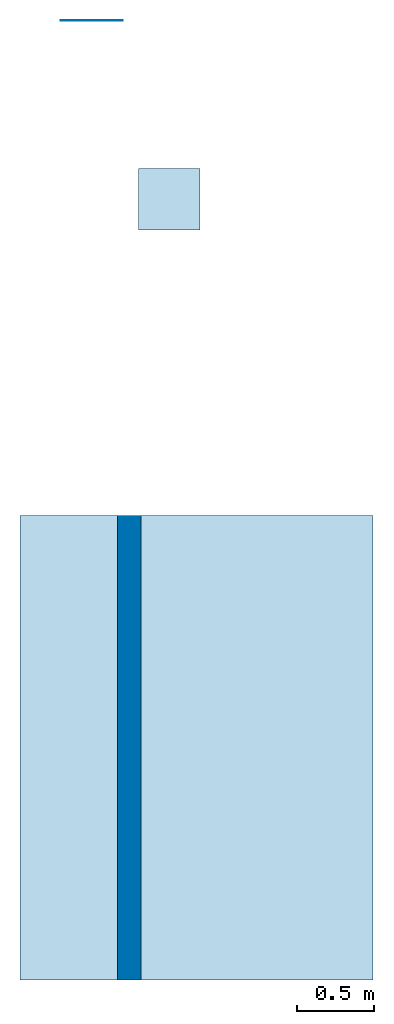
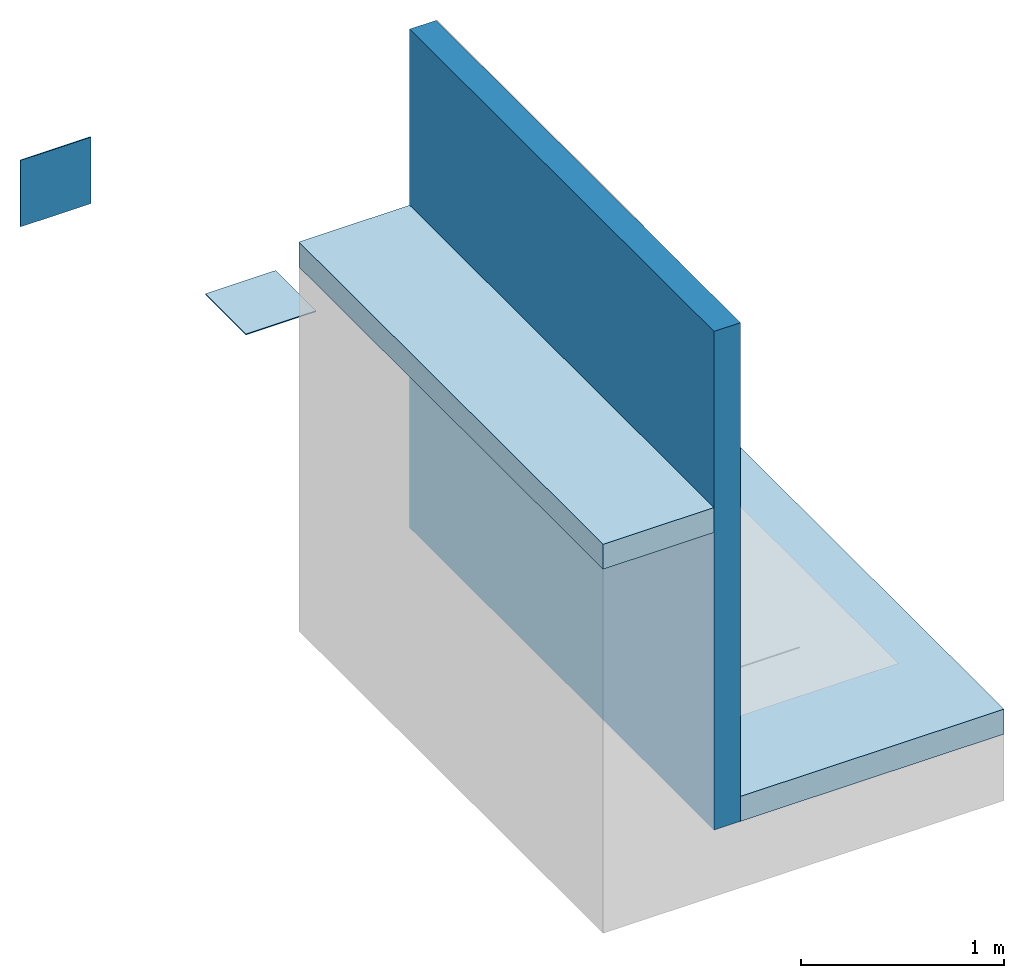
# One storey, part 1 of 2: 3 slabs, 2 walls.
"""IFC2X3 building model written with IfcOpenShell, lengths in metres."""

from ifc_helpers import new_model, entity, si_unit, converted_unit, derived_unit, direction, frame, frame_2d, origin, origin_2d_with_axis, place, context, subcontext, project, spatial, rectangle, extrude, material, layer, layer_set, layer_usage, type_object, element, save


model = new_model("IFC2X3")

# Units and contexts
model_context = context("Model", 3, precision=1e-05, world=origin(), true_north=direction((6.123031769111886e-17, 1.0)))
body_context = subcontext(model_context, "Body", "Model", "MODEL_VIEW")
ifc_project = project(units=[si_unit("LENGTHUNIT", "METRE"), si_unit("AREAUNIT", "SQUARE_METRE"), si_unit("VOLUMEUNIT", "CUBIC_METRE"), converted_unit("PLANEANGLEUNIT", "DEGREE", entity("IfcRatioMeasure", 0.017453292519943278), si_unit("PLANEANGLEUNIT", "RADIAN"), dimensions=[0, 0, 0, 0, 0, 0, 0]), si_unit("MASSUNIT", "GRAM", prefix="KILO"), derived_unit("MASSDENSITYUNIT", [(si_unit("MASSUNIT", "GRAM", prefix="KILO"), 1), (si_unit("LENGTHUNIT", "METRE"), -3)]), derived_unit("IONCONCENTRATIONUNIT", [(si_unit("MASSUNIT", "GRAM", prefix="KILO"), 1), (si_unit("LENGTHUNIT", "METRE"), -3)]), derived_unit("MOMENTOFINERTIAUNIT", [(si_unit("LENGTHUNIT", "METRE"), 4)]), si_unit("TIMEUNIT", "SECOND"), si_unit("FREQUENCYUNIT", "HERTZ"), si_unit("THERMODYNAMICTEMPERATUREUNIT", "DEGREE_CELSIUS"), derived_unit("THERMALTRANSMITTANCEUNIT", [(si_unit("MASSUNIT", "GRAM", prefix="KILO"), 1), (si_unit("THERMODYNAMICTEMPERATUREUNIT", "KELVIN"), -1), (si_unit("TIMEUNIT", "SECOND"), -3)]), derived_unit("THERMALCONDUCTANCEUNIT", [(si_unit("MASSUNIT", "GRAM", prefix="KILO"), 1), (si_unit("THERMODYNAMICTEMPERATUREUNIT", "KELVIN"), -1), (si_unit("TIMEUNIT", "SECOND"), -3), (si_unit("LENGTHUNIT", "METRE"), 1)]), derived_unit("VOLUMETRICFLOWRATEUNIT", [(si_unit("LENGTHUNIT", "METRE"), 3), (si_unit("TIMEUNIT", "SECOND"), -1)]), derived_unit("MASSFLOWRATEUNIT", [(si_unit("MASSUNIT", "GRAM", prefix="KILO"), 1), (si_unit("TIMEUNIT", "SECOND"), -1)]), derived_unit("ROTATIONALFREQUENCYUNIT", [(si_unit("TIMEUNIT", "SECOND"), -1)]), si_unit("ELECTRICCURRENTUNIT", "AMPERE"), si_unit("ELECTRICVOLTAGEUNIT", "VOLT"), si_unit("POWERUNIT", "WATT"), si_unit("FORCEUNIT", "NEWTON", prefix="KILO"), si_unit("ILLUMINANCEUNIT", "LUX"), si_unit("LUMINOUSFLUXUNIT", "LUMEN"), si_unit("LUMINOUSINTENSITYUNIT", "CANDELA"), derived_unit("USERDEFINED", [(si_unit("MASSUNIT", "GRAM", prefix="KILO"), -1), (si_unit("LENGTHUNIT", "METRE"), -2), (si_unit("TIMEUNIT", "SECOND"), 3), (si_unit("LUMINOUSFLUXUNIT", "LUMEN"), 1)]), derived_unit("USERDEFINED", [(si_unit("MASSUNIT", "GRAM", prefix="KILO"), 1), (si_unit("TIMEUNIT", "SECOND"), -3), (si_unit("LENGTHUNIT", "METRE"), 3), (si_unit("ELECTRICCURRENTUNIT", "AMPERE"), -2)]), derived_unit("SOUNDPOWERUNIT", [(si_unit("MASSUNIT", "GRAM", prefix="KILO"), 1), (si_unit("TIMEUNIT", "SECOND"), -3), (si_unit("LENGTHUNIT", "METRE"), 2)]), derived_unit("SOUNDPRESSUREUNIT", [(si_unit("MASSUNIT", "GRAM", prefix="KILO"), 1), (si_unit("LENGTHUNIT", "METRE"), -1), (si_unit("TIMEUNIT", "SECOND"), -2)]), derived_unit("LINEARVELOCITYUNIT", [(si_unit("LENGTHUNIT", "METRE"), 1), (si_unit("TIMEUNIT", "SECOND"), -1)]), si_unit("PRESSUREUNIT", "PASCAL"), derived_unit("USERDEFINED", [(si_unit("MASSUNIT", "GRAM", prefix="KILO"), 1), (si_unit("LENGTHUNIT", "METRE"), -2), (si_unit("TIMEUNIT", "SECOND"), -2)]), derived_unit("LINEARFORCEUNIT", [(si_unit("MASSUNIT", "GRAM", prefix="KILO"), 1), (si_unit("TIMEUNIT", "SECOND"), -2)]), derived_unit("PLANARFORCEUNIT", [(si_unit("MASSUNIT", "GRAM", prefix="KILO"), 1), (si_unit("LENGTHUNIT", "METRE"), -1), (si_unit("TIMEUNIT", "SECOND"), -2)]), derived_unit("SPECIFICHEATCAPACITYUNIT", [(si_unit("THERMODYNAMICTEMPERATUREUNIT", "KELVIN"), -1), (si_unit("LENGTHUNIT", "METRE"), 2), (si_unit("TIMEUNIT", "SECOND"), -2)]), derived_unit("HEATINGVALUEUNIT", [(si_unit("LENGTHUNIT", "METRE"), 2), (si_unit("TIMEUNIT", "SECOND"), -2)]), derived_unit("VAPORPERMEABILITYUNIT", [(si_unit("LENGTHUNIT", "METRE"), -1), (si_unit("TIMEUNIT", "SECOND"), 1)]), derived_unit("DYNAMICVISCOSITYUNIT", [(si_unit("MASSUNIT", "GRAM", prefix="KILO"), 1), (si_unit("TIMEUNIT", "SECOND"), -1), (si_unit("LENGTHUNIT", "METRE"), -1)]), derived_unit("THERMALEXPANSIONCOEFFICIENTUNIT", [(si_unit("THERMODYNAMICTEMPERATUREUNIT", "KELVIN"), -1)]), derived_unit("MODULUSOFELASTICITYUNIT", [(si_unit("MASSUNIT", "GRAM", prefix="KILO"), 1), (si_unit("LENGTHUNIT", "METRE"), -1), (si_unit("TIMEUNIT", "SECOND"), -2)]), derived_unit("ISOTHERMALMOISTURECAPACITYUNIT", [(si_unit("LENGTHUNIT", "METRE"), 3), (si_unit("MASSUNIT", "GRAM", prefix="KILO"), -1)]), derived_unit("MOISTUREDIFFUSIVITYUNIT", [(si_unit("TIMEUNIT", "SECOND"), -1), (si_unit("LENGTHUNIT", "METRE"), 2)])], contexts=[model_context])

# Site, building, storey
site_placement = place(None, origin())
site = spatial("IfcSite", under=ifc_project, at=site_placement, Name="Default", CompositionType="ELEMENT")
building_placement = place(site_placement, origin())
building = spatial("IfcBuilding", under=site, at=building_placement, CompositionType="ELEMENT")
storey_placement = place(building_placement, frame((0.0, 0.0, -0.0025237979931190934)))
storey = spatial("IfcBuildingStorey", under=building, at=storey_placement, Name="ARQ Térreo", CompositionType="ELEMENT", Elevation=-0.0025237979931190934)

# Slabs
ifc_material_1 = material(Name="#concreto")
ifc_layer_1 = layer(ifc_material_1, 0.14999999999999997)
ifc_layer_set_1 = layer_set([ifc_layer_1], Name="Piso:Genérico 150 mm")
ifc_layer_usage_1 = layer_usage(ifc_layer_set_1, "AXIS3", "POSITIVE", 0.0)
slab_type_1 = type_object("IfcSlabType", Name="Piso:Genérico 150 mm", PredefinedType="FLOOR", material=ifc_layer_set_1)
slab_1_placement = place(storey_placement, origin())
element("IfcSlab", 1, at=slab_1_placement, inside=storey, type_object=slab_type_1, material=ifc_layer_usage_1, Name="Piso:Genérico 150 mm", ObjectType="Piso:Genérico 150 mm", PredefinedType="FLOOR", context=body_context, shape_type="SweptSolid", body=[
    extrude(rectangle(XDim=3.0000000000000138, YDim=1.5000000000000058, at=frame_2d((2.220446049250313e-16, 1.1102230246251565e-16), x_axis=(1.0, 0.0))), frame((0.3980295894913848, -1.3541299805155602, 0.14999999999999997), z_axis=(0.0, 0.0, -1.0), x_axis=(0.0, 1.0, 0.0)), (0.0, 0.0, 1.0), 0.14999999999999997),
])
slab_2_placement = place(storey_placement, origin())
element("IfcSlab", 2, at=slab_2_placement, inside=storey, type_object=slab_type_1, material=ifc_layer_usage_1, Name="Piso:Genérico 150 mm", ObjectType="Piso:Genérico 150 mm", PredefinedType="FLOOR", context=body_context, shape_type="SweptSolid", body=[
    extrude(rectangle(XDim=3.0000000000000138, YDim=0.6311017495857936, at=frame_2d((2.220446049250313e-16, 8.326672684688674e-17), x_axis=(1.0, 0.0))), frame((-0.817521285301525, -1.3541299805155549, 1.9404691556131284), z_axis=(0.0, 0.0, -1.0), x_axis=(0.0, 1.0, 0.0)), (0.0, 0.0, 1.0), 0.15000000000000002),
])
ifc_material_2 = material(Name="#Chapisco")
ifc_layer_2 = layer(ifc_material_2, 0.005)
ifc_material_3 = material(Name="#VANDEX SUPER")
ifc_layer_3 = layer(ifc_material_3, 0.0009999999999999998)
ifc_layer_set_2 = layer_set([ifc_layer_2, ifc_layer_3], Name="Piso:IMPH_VANDEXSUPER")
ifc_layer_usage_2 = layer_usage(ifc_layer_set_2, "AXIS3", "POSITIVE", 0.0)
slab_type_2 = type_object("IfcSlabType", Name="Piso:IMPH_VANDEXSUPER", PredefinedType="FLOOR", material=ifc_layer_set_2)
slab_3_placement = place(storey_placement, origin())
element("IfcSlab", 3, at=slab_3_placement, inside=storey, type_object=slab_type_2, material=ifc_layer_usage_2, Name="Piso:IMPH_VANDEXSUPER", ObjectType="Piso:IMPH_VANDEXSUPER", PredefinedType="FLOOR", context=body_context, shape_type="SweptSolid", body=[
    extrude(rectangle(XDim=0.4, YDim=0.4, at=origin_2d_with_axis()), frame((-0.16887219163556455, 2.19049679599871, 0.0), z_axis=(0.0, 0.0, -1.0), x_axis=(0.0, 1.0, 0.0)), (0.0, 0.0, 1.0), 0.006),
])

# Walls
ifc_layer_4 = layer(ifc_material_1, 0.14999999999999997)
ifc_layer_set_3 = layer_set([ifc_layer_4], Name="Parede básica:Parede básica:Parede Concreto")
ifc_layer_usage_3 = layer_usage(ifc_layer_set_3, "AXIS2", "NEGATIVE", 0.07499999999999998)
wall_type_1 = type_object("IfcWallType", Name="Parede básica:Parede básica:Parede Concreto", PredefinedType="STANDARD", material=ifc_layer_set_3)
wall_1_placement = place(storey_placement, frame((-0.4269704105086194, 0.14587001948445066, 0.0), z_axis=(0.0, 0.0, 1.0), x_axis=(0.0, -1.0, 0.0)))
element("IfcWallStandardCase", 4, at=wall_1_placement, inside=storey, type_object=wall_type_1, material=ifc_layer_usage_3, Name="Parede básica:Parede Concreto", ObjectType="Parede básica:Parede Concreto", context=body_context, shape_type="SweptSolid", body=[
    extrude(rectangle(XDim=2.9999999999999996, YDim=0.15000000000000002, at=frame_2d((1.4999999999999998, 0.0), x_axis=(-1.0, 0.0))), origin(), (0.0, 0.0, 1.0), 2.9999999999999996),
])
ifc_layer_5 = layer(ifc_material_2, 0.005)
ifc_layer_6 = layer(ifc_material_3, 0.0009999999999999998)
ifc_layer_set_4 = layer_set([ifc_layer_5, ifc_layer_6], Name="Parede básica:IMPV_VANDEXSUPER")
ifc_layer_usage_4 = layer_usage(ifc_layer_set_4, "AXIS2", "NEGATIVE", 0.0030000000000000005)
wall_type_2 = type_object("IfcWallType", Name="Parede básica:IMPV_VANDEXSUPER", PredefinedType="STANDARD", material=ifc_layer_set_4)
wall_2_placement = place(storey_placement, frame((-0.4703325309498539, 3.345870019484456, 0.0), z_axis=(0.0, 0.0, 1.0), x_axis=(-1.0, 0.0, 0.0)))
element("IfcWallStandardCase", 5, at=wall_2_placement, inside=storey, type_object=wall_type_2, material=ifc_layer_usage_4, Name="Parede básica:IMPV_VP7000", ObjectType="Parede básica:IMPV_VP7000", context=body_context, shape_type="SweptSolid", body=[
    extrude(rectangle(XDim=0.4000000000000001, YDim=0.005999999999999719, at=frame_2d((0.20000000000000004, 5.919743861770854e-17), x_axis=(-1.0, 0.0))), origin(), (0.0, 0.0, 1.0), 0.4),
])

save(model, "model.ifc")
